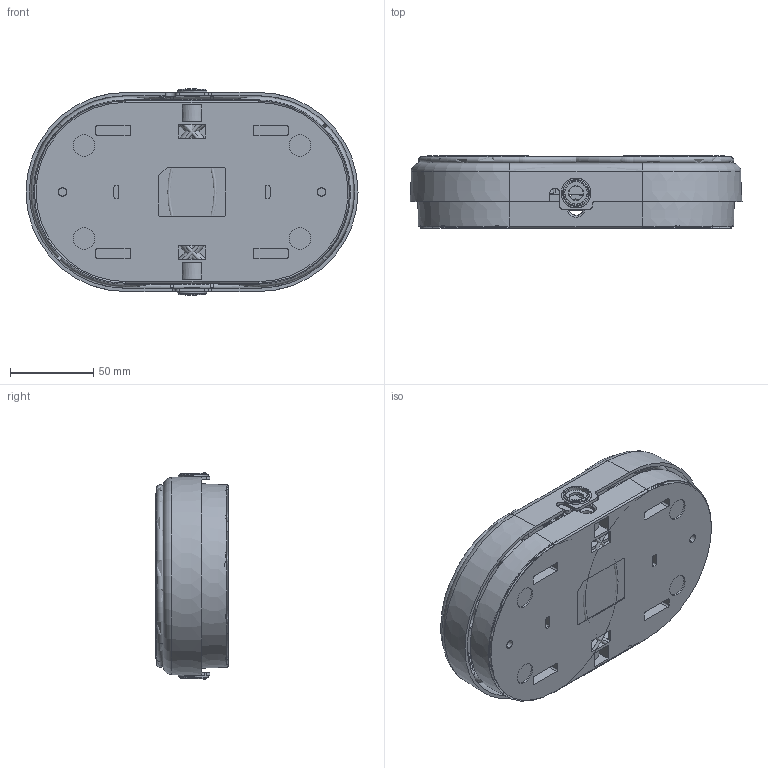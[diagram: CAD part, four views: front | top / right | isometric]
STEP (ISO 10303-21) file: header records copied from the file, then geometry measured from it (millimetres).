
FILE_DESCRIPTION((''),'2;1');
FILE_NAME('1','2014-06-04T',('tony'),(''),'PRO/ENGINEER BY PARAMETRIC TECHNOLOGY CORPORATION, 2008090','PRO/ENGINEER BY PARAMETRIC TECHNOLOGY CORPORATION, 2008090','');
FILE_SCHEMA(('CONFIG_CONTROL_DESIGN'));
Products named in the file (1): 1
Bounding box: 200 x 43.5 x 124.17 mm (x, y, z)
Surface area: 203533.3 mm2 (no closed solid volume)
Topology: 0 solids, 0 shells, 705 faces, 3938 edges, 3905 vertices
Faces by surface type: bspline 632, torus 69, sphere 4
Entity records: 63196 total; most frequent: CARTESIAN_POINT 27892, DIRECTION 5752, TRIMMED_CURVE 4890, VECTOR 4174, LINE 4174, DEFINITIONAL_REPRESENTATION 3876, PCURVE 3876, COMPOSITE_CURVE_SEGMENT 3876
